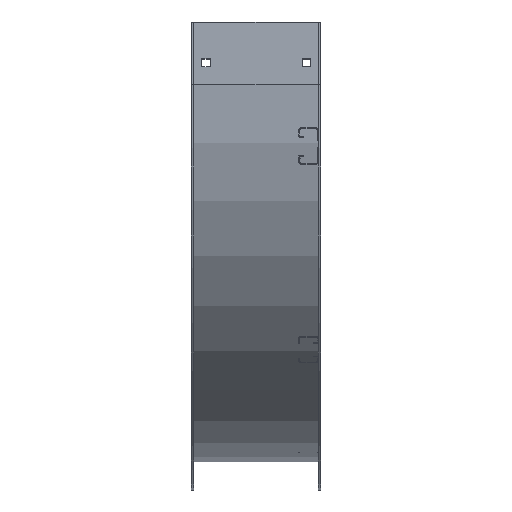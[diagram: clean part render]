
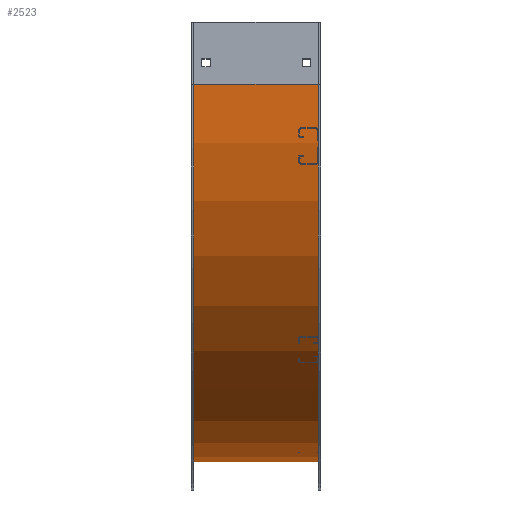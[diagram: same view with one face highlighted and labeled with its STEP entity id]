
A CAD part, left-side view. The second image highlights one B-rep face of the part: STEP entity #2523.
In plain terms, the highlighted cylindrical face has radius 462.026 mm (diameter 924.052 mm), a partial arc.
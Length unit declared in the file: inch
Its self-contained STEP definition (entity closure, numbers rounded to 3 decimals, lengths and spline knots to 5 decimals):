
#1560=CARTESIAN_POINT('',(-6.12,-18.09,3.));
#1561=DIRECTION('',(1.,0.,0.));
#1562=DIRECTION('',(0.,1.,0.));
#1563=AXIS2_PLACEMENT_3D('',#1560,#1561,#1562);
#1753=DIRECTION('',(-1.,0.,0.));
#1754=VECTOR('',#1753,6.02);
#1755=CARTESIAN_POINT('',(-0.1,-18.09,21.19));
#1756=LINE('',#1755,#1754);
#1793=DIRECTION('',(-1.,0.,0.));
#1794=VECTOR('',#1793,6.02);
#1795=CARTESIAN_POINT('',(-0.1,0.1,3.));
#1796=LINE('',#1795,#1794);
#1797=CARTESIAN_POINT('',(-0.1,-18.09,3.));
#1798=DIRECTION('',(1.,0.,0.));
#1799=DIRECTION('',(0.,1.,0.));
#1800=AXIS2_PLACEMENT_3D('',#1797,#1798,#1799);
#1924=CARTESIAN_POINT('',(-0.1,0.1,3.));
#1925=CARTESIAN_POINT('',(-6.12,0.1,3.));
#1926=VERTEX_POINT('',#1924);
#1927=VERTEX_POINT('',#1925);
#1948=CARTESIAN_POINT('',(-0.1,-18.09,21.19));
#1949=CARTESIAN_POINT('',(-6.12,-18.09,21.19));
#1950=VERTEX_POINT('',#1948);
#1951=VERTEX_POINT('',#1949);
#2512=CARTESIAN_POINT('',(-1.,-18.09,3.));
#2513=DIRECTION('',(1.,0.,0.));
#2514=DIRECTION('',(0.,-1.,0.));
#2515=AXIS2_PLACEMENT_3D('',#2512,#2513,#2514);
#2516=CYLINDRICAL_SURFACE('',#2515,18.19);
#2517=ORIENTED_EDGE('',*,*,#2297,.F.);
#2518=ORIENTED_EDGE('',*,*,#2338,.T.);
#2519=ORIENTED_EDGE('',*,*,#2485,.T.);
#2520=ORIENTED_EDGE('',*,*,#2275,.F.);
#2521=EDGE_LOOP('',(#2517,#2518,#2519,#2520));
#2522=FACE_OUTER_BOUND('',#2521,.F.);
#2523=ADVANCED_FACE('',(#2522),#2516,.T.);
#1564=CIRCLE('',#1563,18.19);
#1801=CIRCLE('',#1800,18.19);
#2275=EDGE_CURVE('',#1927,#1951,#1564,.T.);
#2297=EDGE_CURVE('',#1926,#1927,#1796,.T.);
#2338=EDGE_CURVE('',#1926,#1950,#1801,.T.);
#2485=EDGE_CURVE('',#1950,#1951,#1756,.T.);
